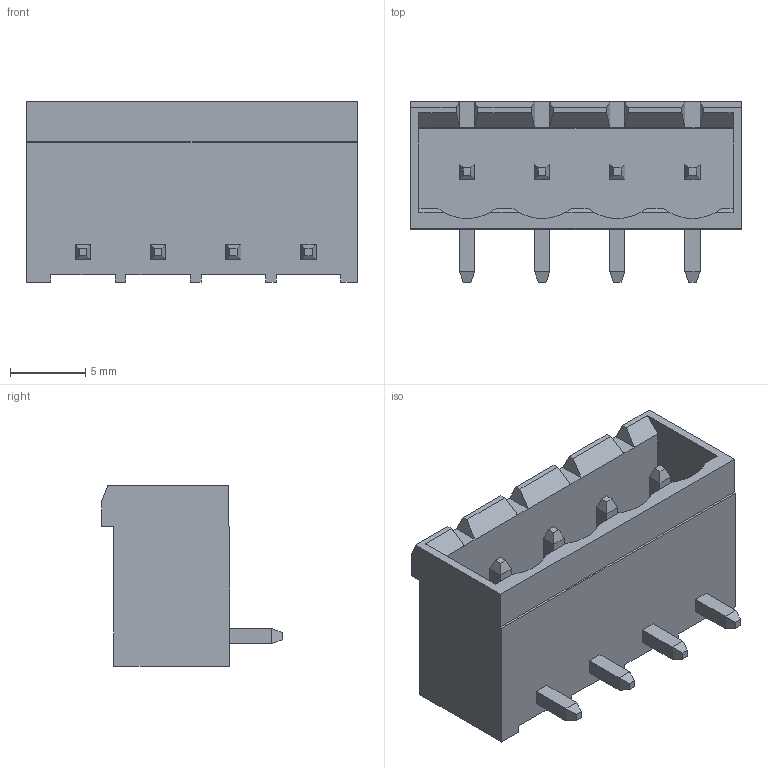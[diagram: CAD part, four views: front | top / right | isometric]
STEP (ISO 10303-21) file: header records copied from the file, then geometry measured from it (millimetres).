
FILE_DESCRIPTION (( 'STEP AP214' ), '1' );
FILE_NAME ('796700-4.STEP', '2024-02-26T15:47:35', ( 'LENOVO' ), ( '' ), 'SwSTEP 2.0', 'SolidWorks 2021', '' );
FILE_SCHEMA (( 'AUTOMOTIVE_DESIGN' ));
Length unit declared in the file: millimetre
Products named in the file (1): 796700-4
Bounding box: 22 x 12 x 12 mm (x, y, z)
Volume: 1077.2 mm3; surface area: 1687.9 mm2
Topology: 9 solids, 9 shells, 149 faces, 345 edges, 214 vertices
Faces by surface type: plane 145, cylinder 4
Entity records: 4189 total; most frequent: CARTESIAN_POINT 733, ORIENTED_EDGE 690, DIRECTION 645, EDGE_CURVE 345, LINE 329, VECTOR 329, VERTEX_POINT 214, AXIS2_PLACEMENT_3D 158
